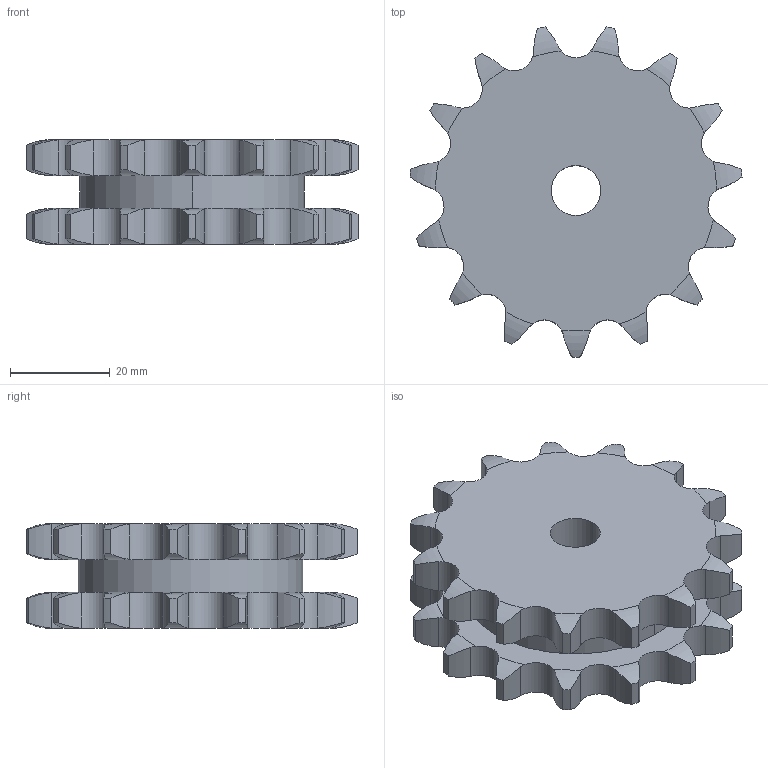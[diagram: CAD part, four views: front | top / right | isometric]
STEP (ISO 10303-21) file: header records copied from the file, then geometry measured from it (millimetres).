
FILE_DESCRIPTION((''),'2;1');
FILE_NAME('500-202-0015_PRT','2021-02-12T',('Brieden'),('Brieden'),'PRO/ENGINEER BY PARAMETRIC TECHNOLOGY CORPORATION, 2010160','PRO/ENGINEER BY PARAMETRIC TECHNOLOGY CORPORATION, 2010160','');
FILE_SCHEMA(('AUTOMOTIVE_DESIGN { 1 0 10303 214 1 1 1 1 }'));
Length unit declared in the file: millimetre
Products named in the file (1): 500-202-0015_PRT
Bounding box: 66.58 x 66.23 x 21 mm (x, y, z)
Volume: 47492.1 mm3; surface area: 13030.6 mm2
Topology: 1 solids, 1 shells, 188 faces, 552 edges, 368 vertices
Faces by surface type: cylinder 124, torus 60, plane 4
Entity records: 8762 total; most frequent: CARTESIAN_POINT 2319, ORIENTED_EDGE 1104, DIRECTION 876, PRESENTATION_STYLE_ASSIGNMENT 553, STYLED_ITEM 553, CURVE_STYLE 552, EDGE_CURVE 552, AXIS2_PLACEMENT_3D 376
